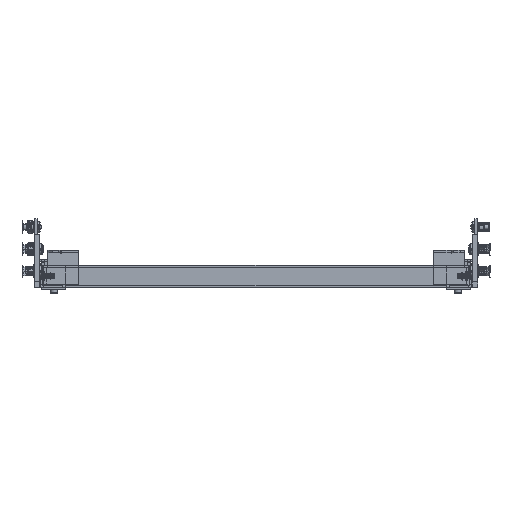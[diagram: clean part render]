
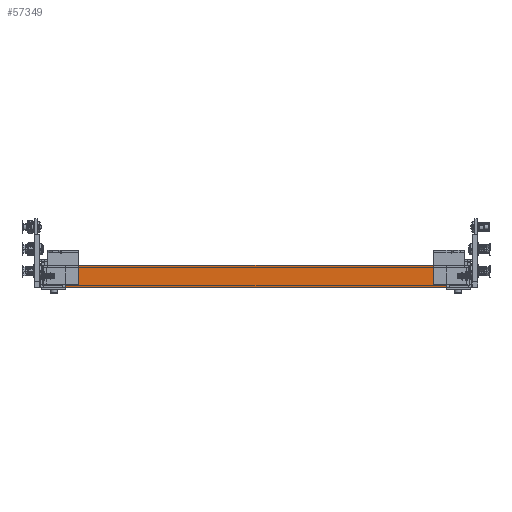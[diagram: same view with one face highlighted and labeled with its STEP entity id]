
A CAD part, front view. The second image highlights one B-rep face of the part: STEP entity #57349.
In plain terms, the highlighted planar face has unit normal (0, -1, 0) as drawn and (-1, 0, 0) by its records, which use the part's own axes.
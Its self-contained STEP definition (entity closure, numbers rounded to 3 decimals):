
#1363 = DIRECTION ( 'NONE',  ( 0., -1., 0. ) ) ;
#5616 = LINE ( 'NONE', #145076, #224898 ) ;
#8064 = VECTOR ( 'NONE', #1363, 1000. ) ;
#9453 = VERTEX_POINT ( 'NONE', #56694 ) ;
#15119 = CARTESIAN_POINT ( 'NONE',  ( -1041.51, -214.5, 21.9 ) ) ;
#16312 = ORIENTED_EDGE ( 'NONE', *, *, #123107, .T. ) ;
#17391 = ORIENTED_EDGE ( 'NONE', *, *, #289758, .T. ) ;
#28505 = CARTESIAN_POINT ( 'NONE',  ( -1041.51, -214.5, 2.5 ) ) ;
#36481 = CARTESIAN_POINT ( 'NONE',  ( -1041.51, 214.5, 2.5 ) ) ;
#41692 = LINE ( 'NONE', #85727, #276342 ) ;
#43846 = DIRECTION ( 'NONE',  ( 0., 0., 1. ) ) ;
#45971 = VERTEX_POINT ( 'NONE', #278309 ) ;
#49886 = CARTESIAN_POINT ( 'NONE',  ( -1041.51, 214.5, 2.5 ) ) ;
#51794 = VERTEX_POINT ( 'NONE', #237828 ) ;
#52591 = DIRECTION ( 'NONE',  ( 0., -1., 0. ) ) ;
#52909 = VERTEX_POINT ( 'NONE', #111659 ) ;
#55697 = EDGE_LOOP ( 'NONE', ( #132899, #17391, #194638, #115000, #145573, #265790, #16312, #281616 ) ) ;
#56694 = CARTESIAN_POINT ( 'NONE',  ( -1041.51, -214.5, 25. ) ) ;
#57349 = ADVANCED_FACE ( 'NONE', ( #132195 ), #221849, .F. ) ;
#66054 = CARTESIAN_POINT ( 'NONE',  ( -1041.51, -240.5, 0. ) ) ;
#69007 = DIRECTION ( 'NONE',  ( 1., 0., 0. ) ) ;
#71556 = VECTOR ( 'NONE', #263571, 1000. ) ;
#75069 = EDGE_CURVE ( 'NONE', #102407, #158906, #259699, .T. ) ;
#85727 = CARTESIAN_POINT ( 'NONE',  ( -1041.51, 214.5, 2.5 ) ) ;
#102407 = VERTEX_POINT ( 'NONE', #160663 ) ;
#105921 = CARTESIAN_POINT ( 'NONE',  ( -1041.51, 214.5, 25. ) ) ;
#109200 = CARTESIAN_POINT ( 'NONE',  ( -1041.51, 214.5, 3.1 ) ) ;
#111659 = CARTESIAN_POINT ( 'NONE',  ( -1041.51, 214.5, 21.9 ) ) ;
#115000 = ORIENTED_EDGE ( 'NONE', *, *, #142402, .F. ) ;
#120219 = LINE ( 'NONE', #36481, #283050 ) ;
#123107 = EDGE_CURVE ( 'NONE', #51794, #45971, #267313, .T. ) ;
#132195 = FACE_OUTER_BOUND ( 'NONE', #55697, .T. ) ;
#132680 = DIRECTION ( 'NONE',  ( 0., 0., -1. ) ) ;
#132899 = ORIENTED_EDGE ( 'NONE', *, *, #75069, .T. ) ;
#135700 = VECTOR ( 'NONE', #276697, 1000. ) ;
#142402 = EDGE_CURVE ( 'NONE', #52909, #207514, #120219, .T. ) ;
#144854 = VERTEX_POINT ( 'NONE', #195394 ) ;
#145076 = CARTESIAN_POINT ( 'NONE',  ( -1041.51, 214.5, 25. ) ) ;
#145573 = ORIENTED_EDGE ( 'NONE', *, *, #258557, .T. ) ;
#150921 = EDGE_CURVE ( 'NONE', #102407, #45971, #229753, .T. ) ;
#158338 = CARTESIAN_POINT ( 'NONE',  ( -1041.51, -214.5, 21.9 ) ) ;
#158593 = DIRECTION ( 'NONE',  ( 0., 0., -1. ) ) ;
#158906 = VERTEX_POINT ( 'NONE', #15119 ) ;
#160663 = CARTESIAN_POINT ( 'NONE',  ( -1041.51, -214.5, 3.1 ) ) ;
#180410 = LINE ( 'NONE', #158338, #212068 ) ;
#194638 = ORIENTED_EDGE ( 'NONE', *, *, #284990, .F. ) ;
#195394 = CARTESIAN_POINT ( 'NONE',  ( -1041.51, 214.5, 3.1 ) ) ;
#207070 = VECTOR ( 'NONE', #261138, 1000. ) ;
#207514 = VERTEX_POINT ( 'NONE', #105921 ) ;
#212068 = VECTOR ( 'NONE', #43846, 1000. ) ;
#217042 = AXIS2_PLACEMENT_3D ( 'NONE', #49886, #69007, #158593 ) ;
#221849 = PLANE ( 'NONE',  #217042 ) ;
#224898 = VECTOR ( 'NONE', #52591, 1000. ) ;
#229753 = LINE ( 'NONE', #28505, #135700 ) ;
#231950 = DIRECTION ( 'NONE',  ( 0., 0., 1. ) ) ;
#237828 = CARTESIAN_POINT ( 'NONE',  ( -1041.51, 214.5, 0. ) ) ;
#241544 = LINE ( 'NONE', #109200, #71556 ) ;
#258557 = EDGE_CURVE ( 'NONE', #52909, #144854, #41692, .T. ) ;
#259699 = LINE ( 'NONE', #283184, #207070 ) ;
#261138 = DIRECTION ( 'NONE',  ( 0., 0., 1. ) ) ;
#263571 = DIRECTION ( 'NONE',  ( 0., 0., -1. ) ) ;
#265790 = ORIENTED_EDGE ( 'NONE', *, *, #290580, .T. ) ;
#267313 = LINE ( 'NONE', #66054, #8064 ) ;
#276342 = VECTOR ( 'NONE', #132680, 1000. ) ;
#276697 = DIRECTION ( 'NONE',  ( 0., 0., -1. ) ) ;
#278309 = CARTESIAN_POINT ( 'NONE',  ( -1041.51, -214.5, 0. ) ) ;
#281616 = ORIENTED_EDGE ( 'NONE', *, *, #150921, .F. ) ;
#283050 = VECTOR ( 'NONE', #231950, 1000. ) ;
#283184 = CARTESIAN_POINT ( 'NONE',  ( -1041.51, -214.5, 2.5 ) ) ;
#284990 = EDGE_CURVE ( 'NONE', #207514, #9453, #5616, .T. ) ;
#289758 = EDGE_CURVE ( 'NONE', #158906, #9453, #180410, .T. ) ;
#290580 = EDGE_CURVE ( 'NONE', #144854, #51794, #241544, .T. ) ;
